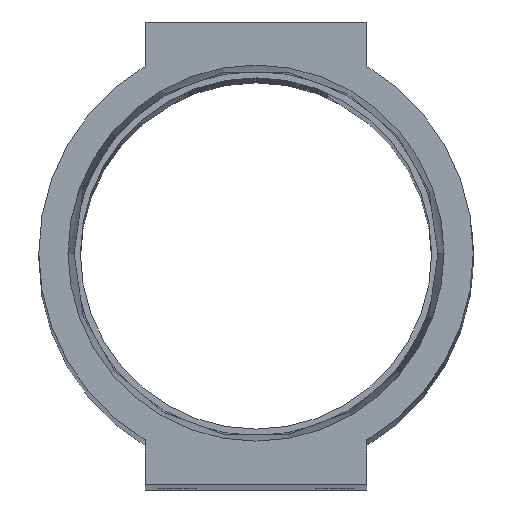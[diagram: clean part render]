
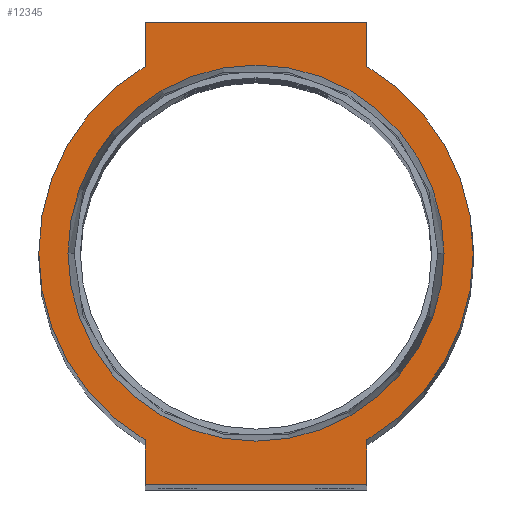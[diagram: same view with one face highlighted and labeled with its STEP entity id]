
A CAD part, top view. The second image highlights one B-rep face of the part: STEP entity #12345.
In plain terms, the highlighted planar face has unit normal (0, 0, 1).
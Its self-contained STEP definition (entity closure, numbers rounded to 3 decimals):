
#62 = EDGE_CURVE ( 'NONE', #1465, #8344, #784, .T. ) ;
#90 = CARTESIAN_POINT ( 'NONE',  ( -12., -25., 0. ) ) ;
#228 = CIRCLE ( 'NONE', #7044, 23.5 ) ;
#259 = CARTESIAN_POINT ( 'NONE',  ( 12., 20.205, 0. ) ) ;
#603 = CARTESIAN_POINT ( 'NONE',  ( 0., 0., 0. ) ) ;
#784 = CIRCLE ( 'NONE', #7828, 20.34 ) ;
#1175 = CIRCLE ( 'NONE', #3677, 23.5 ) ;
#1186 = DIRECTION ( 'NONE',  ( 1., 0., 0. ) ) ;
#1192 = CARTESIAN_POINT ( 'NONE',  ( 12., -20.205, 0. ) ) ;
#1465 = VERTEX_POINT ( 'NONE', #11641 ) ;
#1503 = VERTEX_POINT ( 'NONE', #90 ) ;
#1699 = DIRECTION ( 'NONE',  ( 1., 0., 0. ) ) ;
#1760 = EDGE_CURVE ( 'NONE', #1503, #12577, #2202, .T. ) ;
#1777 = EDGE_LOOP ( 'NONE', ( #8743, #9032 ) ) ;
#1855 = DIRECTION ( 'NONE',  ( 1., 0., 0. ) ) ;
#1860 = CARTESIAN_POINT ( 'NONE',  ( 0., 0., 0. ) ) ;
#2120 = VECTOR ( 'NONE', #2490, 1000. ) ;
#2185 = DIRECTION ( 'NONE',  ( 0., -1., 0. ) ) ;
#2189 = CARTESIAN_POINT ( 'NONE',  ( 23.5, 0., 0. ) ) ;
#2202 = LINE ( 'NONE', #8953, #7792 ) ;
#2204 = LINE ( 'NONE', #11842, #8607 ) ;
#2271 = LINE ( 'NONE', #13304, #2120 ) ;
#2272 = CARTESIAN_POINT ( 'NONE',  ( -12., 20.205, 0. ) ) ;
#2392 = EDGE_CURVE ( 'NONE', #11744, #9317, #10752, .T. ) ;
#2422 = DIRECTION ( 'NONE',  ( 1., 0., 0. ) ) ;
#2490 = DIRECTION ( 'NONE',  ( 0., 1., 0. ) ) ;
#2665 = ORIENTED_EDGE ( 'NONE', *, *, #3154, .T. ) ;
#2696 = CARTESIAN_POINT ( 'NONE',  ( -20.34, 0., 0. ) ) ;
#2890 = VERTEX_POINT ( 'NONE', #2272 ) ;
#2911 = LINE ( 'NONE', #8113, #7948 ) ;
#2934 = EDGE_CURVE ( 'NONE', #12577, #11795, #2204, .T. ) ;
#3154 = EDGE_CURVE ( 'NONE', #5655, #1503, #2911, .T. ) ;
#3166 = DIRECTION ( 'NONE',  ( -1., 0., 0. ) ) ;
#3238 = EDGE_CURVE ( 'NONE', #11795, #11725, #228, .T. ) ;
#3251 = DIRECTION ( 'NONE',  ( 0., 0., 1. ) ) ;
#3258 = EDGE_CURVE ( 'NONE', #9317, #2890, #9507, .T. ) ;
#3334 = CARTESIAN_POINT ( 'NONE',  ( 12., 25., 0. ) ) ;
#3335 = DIRECTION ( 'NONE',  ( 1., 0., 0. ) ) ;
#3470 = ORIENTED_EDGE ( 'NONE', *, *, #2934, .T. ) ;
#3577 = CARTESIAN_POINT ( 'NONE',  ( 0., 0., 0. ) ) ;
#3617 = ORIENTED_EDGE ( 'NONE', *, *, #3238, .T. ) ;
#3677 = AXIS2_PLACEMENT_3D ( 'NONE', #1860, #3791, #12502 ) ;
#3762 = DIRECTION ( 'NONE',  ( 0., -1., 0. ) ) ;
#3791 = DIRECTION ( 'NONE',  ( 0., 0., 1. ) ) ;
#3853 = ORIENTED_EDGE ( 'NONE', *, *, #13031, .T. ) ;
#4251 = DIRECTION ( 'NONE',  ( 0., 1., 0. ) ) ;
#4719 = CARTESIAN_POINT ( 'NONE',  ( -12., 25., 0. ) ) ;
#4926 = DIRECTION ( 'NONE',  ( 1., 0., 0. ) ) ;
#4989 = FACE_BOUND ( 'NONE', #1777, .T. ) ;
#5051 = ORIENTED_EDGE ( 'NONE', *, *, #6946, .T. ) ;
#5317 = CARTESIAN_POINT ( 'NONE',  ( 0., 0., 0. ) ) ;
#5360 = EDGE_CURVE ( 'NONE', #11725, #9435, #1175, .T. ) ;
#5655 = VERTEX_POINT ( 'NONE', #7845 ) ;
#5716 = CARTESIAN_POINT ( 'NONE',  ( 12., -25., 0. ) ) ;
#6194 = CARTESIAN_POINT ( 'NONE',  ( 0., 0., 0. ) ) ;
#6468 = CARTESIAN_POINT ( 'NONE',  ( -12., 25., 0. ) ) ;
#6485 = EDGE_LOOP ( 'NONE', ( #5051, #10633, #13756, #3853, #2665, #8798, #3470, #3617, #10992 ) ) ;
#6750 = VECTOR ( 'NONE', #3166, 1000. ) ;
#6946 = EDGE_CURVE ( 'NONE', #9435, #11744, #2271, .T. ) ;
#7044 = AXIS2_PLACEMENT_3D ( 'NONE', #5317, #10904, #1186 ) ;
#7149 = DIRECTION ( 'NONE',  ( 0., 0., 1. ) ) ;
#7522 = CIRCLE ( 'NONE', #9986, 23.5 ) ;
#7792 = VECTOR ( 'NONE', #2422, 1000. ) ;
#7828 = AXIS2_PLACEMENT_3D ( 'NONE', #6194, #3251, #1699 ) ;
#7841 = CIRCLE ( 'NONE', #12340, 20.34 ) ;
#7845 = CARTESIAN_POINT ( 'NONE',  ( -12., -20.205, 0. ) ) ;
#7948 = VECTOR ( 'NONE', #3762, 1000. ) ;
#7955 = CARTESIAN_POINT ( 'NONE',  ( 0., 0., 0. ) ) ;
#8113 = CARTESIAN_POINT ( 'NONE',  ( -12., -25., 0. ) ) ;
#8344 = VERTEX_POINT ( 'NONE', #2696 ) ;
#8607 = VECTOR ( 'NONE', #4251, 1000. ) ;
#8743 = ORIENTED_EDGE ( 'NONE', *, *, #62, .F. ) ;
#8798 = ORIENTED_EDGE ( 'NONE', *, *, #1760, .T. ) ;
#8953 = CARTESIAN_POINT ( 'NONE',  ( -12., -25., 0. ) ) ;
#9032 = ORIENTED_EDGE ( 'NONE', *, *, #12609, .F. ) ;
#9317 = VERTEX_POINT ( 'NONE', #4719 ) ;
#9338 = FACE_OUTER_BOUND ( 'NONE', #6485, .T. ) ;
#9435 = VERTEX_POINT ( 'NONE', #259 ) ;
#9507 = LINE ( 'NONE', #6468, #10187 ) ;
#9632 = CARTESIAN_POINT ( 'NONE',  ( -12., 25., 0. ) ) ;
#9986 = AXIS2_PLACEMENT_3D ( 'NONE', #7955, #13028, #3335 ) ;
#10187 = VECTOR ( 'NONE', #2185, 1000. ) ;
#10633 = ORIENTED_EDGE ( 'NONE', *, *, #2392, .T. ) ;
#10752 = LINE ( 'NONE', #9632, #6750 ) ;
#10904 = DIRECTION ( 'NONE',  ( 0., 0., 1. ) ) ;
#10992 = ORIENTED_EDGE ( 'NONE', *, *, #5360, .T. ) ;
#11443 = AXIS2_PLACEMENT_3D ( 'NONE', #603, #7149, #4926 ) ;
#11505 = PLANE ( 'NONE',  #11443 ) ;
#11641 = CARTESIAN_POINT ( 'NONE',  ( 20.34, 0., 0. ) ) ;
#11725 = VERTEX_POINT ( 'NONE', #2189 ) ;
#11744 = VERTEX_POINT ( 'NONE', #3334 ) ;
#11795 = VERTEX_POINT ( 'NONE', #1192 ) ;
#11842 = CARTESIAN_POINT ( 'NONE',  ( 12., -25., 0. ) ) ;
#12340 = AXIS2_PLACEMENT_3D ( 'NONE', #3577, #12495, #1855 ) ;
#12345 = ADVANCED_FACE ( 'NONE', ( #4989, #9338 ), #11505, .T. ) ;
#12495 = DIRECTION ( 'NONE',  ( 0., 0., 1. ) ) ;
#12502 = DIRECTION ( 'NONE',  ( 1., 0., 0. ) ) ;
#12577 = VERTEX_POINT ( 'NONE', #5716 ) ;
#12609 = EDGE_CURVE ( 'NONE', #8344, #1465, #7841, .T. ) ;
#13028 = DIRECTION ( 'NONE',  ( 0., 0., 1. ) ) ;
#13031 = EDGE_CURVE ( 'NONE', #2890, #5655, #7522, .T. ) ;
#13304 = CARTESIAN_POINT ( 'NONE',  ( 12., 25., 0. ) ) ;
#13756 = ORIENTED_EDGE ( 'NONE', *, *, #3258, .T. ) ;
